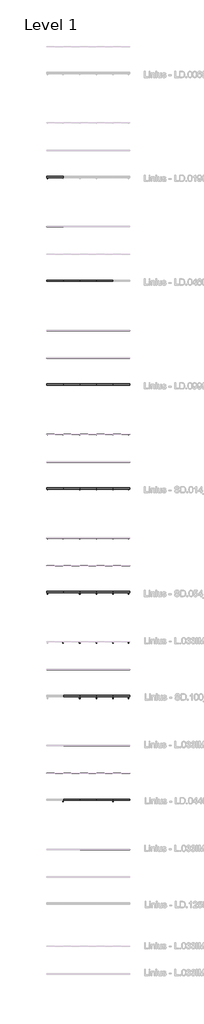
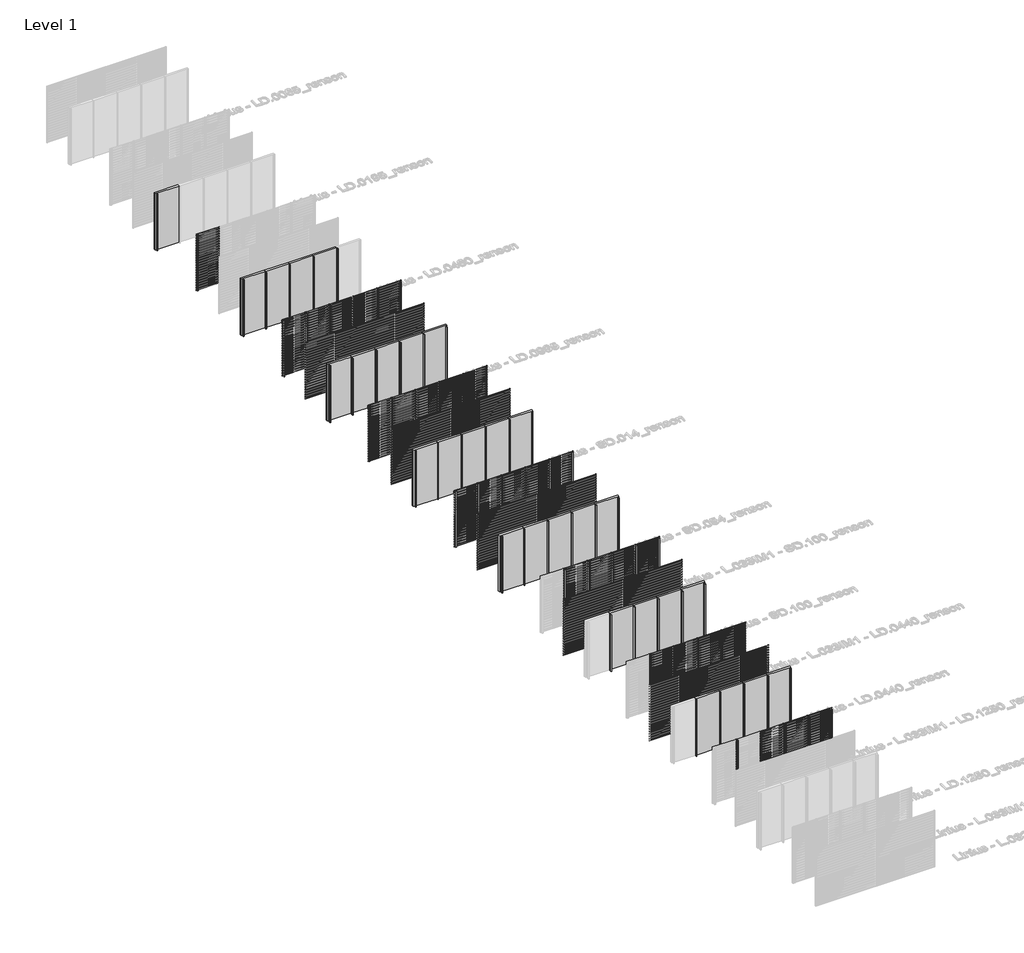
# One storey, part 8 of 507: 68 members, 60 plates.
"""IFC4 building model written with IfcOpenShell, lengths in millimetres."""

from ifc_helpers import new_model, si_unit, origin, origin_with_axes, place, context, project, spatial, polyline, outline, extrude, transform, mapped, element, save
from components import rectangular_mullion_21e3ddae, rectangular_mullion_fb497acc, rectangular_mullion_3facce28, rectangular_mullion_6cf2c509, rectangular_mullion_8b77bd57, rectangular_mullion_2c867e25, rectangular_mullion_7803f5c4, rectangular_mullion_146f339b, rectangular_mullion_c2c7736a, rectangular_mullion_bd250e2e, rectangular_mullion_7b49c8f1, rectangular_mullion_2b84ad7e, rectangular_mullion_0fd695e7, rectangular_mullion_9b796d85, rectangular_mullion_dfb17e98, rectangular_mullion_8f153c19, rectangular_mullion_5e0e8e0a, rectangular_mullion_efb80f74, empty_system_panel_empty_aabbdda4

model = new_model("IFC4")

# Units and contexts
model_context = context("Model", 3, world=origin())
ifc_project = project(units=[si_unit("LENGTHUNIT", "METRE", prefix="MILLI")], contexts=[model_context])

# Site, building, storey
site = spatial("IfcSite", under=ifc_project)
building = spatial("IfcBuilding", under=site)
storey = spatial("IfcBuildingStorey", under=building, Name="Level 1", Elevation=0.0)

# Members
placement = place(None, origin())
rectangular_mullion_shape = rectangular_mullion_21e3ddae(model_context)
element("IfcMember", 1, ObjectType="Rectangular Mullion : LD.0460_renson", at=placement, inside=storey, context=model_context, shape_type="MappedRepresentation", body=[
    mapped(rectangular_mullion_shape, transform((227766.6208095, 54983.0540136, 0.0), x_axis=(-1.0, 0.0, 0.0), y_axis=(0.0, 1.0, 0.0), z_axis=(0.0, 0.0, -1.0))),
])
element("IfcMember", 2, ObjectType="Rectangular Mullion : LD.0460_renson", at=placement, inside=storey, context=model_context, shape_type="MappedRepresentation", body=[
    mapped(rectangular_mullion_shape, transform((226566.6208096, 54983.0540136, 0.0), x_axis=(-1.0, 0.0, 0.0), y_axis=(0.0, 1.0, 0.0), z_axis=(0.0, 0.0, -1.0))),
])
element("IfcMember", 3, ObjectType="Rectangular Mullion : LD.0460_renson", at=placement, inside=storey, context=model_context, shape_type="MappedRepresentation", body=[
    mapped(rectangular_mullion_shape, transform((225366.6208097, 54983.0540136, 0.0), x_axis=(-1.0, 0.0, 0.0), y_axis=(0.0, 1.0, 0.0), z_axis=(0.0, 0.0, -1.0))),
])
element("IfcMember", 4, ObjectType="Rectangular Mullion : LD.0460_renson", at=placement, inside=storey, context=model_context, shape_type="MappedRepresentation", body=[
    mapped(rectangular_mullion_shape, transform((224166.6208099, 54983.0540136, 0.0), x_axis=(-1.0, 0.0, 0.0), y_axis=(0.0, 1.0, 0.0), z_axis=(0.0, 0.0, -1.0))),
])
rectangular_mullion_2_shape = rectangular_mullion_fb497acc(model_context)
element("IfcMember", 5, ObjectType="Rectangular Mullion : LD.0995_renson", at=placement, inside=storey, context=model_context, shape_type="MappedRepresentation", body=[
    mapped(rectangular_mullion_2_shape, transform((227766.6208097, 51483.0540136, 0.0), x_axis=(-1.0, 0.0, 0.0), y_axis=(0.0, 1.0, 0.0), z_axis=(0.0, 0.0, -1.0))),
])
element("IfcMember", 6, ObjectType="Rectangular Mullion : LD.0995_renson", at=placement, inside=storey, context=model_context, shape_type="MappedRepresentation", body=[
    mapped(rectangular_mullion_2_shape, transform((226566.6208097, 51483.0540136, 0.0), x_axis=(-1.0, 0.0, 0.0), y_axis=(0.0, 1.0, 0.0), z_axis=(0.0, 0.0, -1.0))),
])
element("IfcMember", 7, ObjectType="Rectangular Mullion : LD.0995_renson", at=placement, inside=storey, context=model_context, shape_type="MappedRepresentation", body=[
    mapped(rectangular_mullion_2_shape, transform((225366.6208097, 51483.0540136, 0.0), x_axis=(-1.0, 0.0, 0.0), y_axis=(0.0, 1.0, 0.0), z_axis=(0.0, 0.0, -1.0))),
])
element("IfcMember", 8, ObjectType="Rectangular Mullion : LD.0995_renson", at=placement, inside=storey, context=model_context, shape_type="MappedRepresentation", body=[
    mapped(rectangular_mullion_2_shape, transform((224166.6208097, 51483.0540136, 0.0), x_axis=(-1.0, 0.0, 0.0), y_axis=(0.0, 1.0, 0.0), z_axis=(0.0, 0.0, -1.0))),
])
element("IfcMember", 9, ObjectType="Rectangular Mullion : LD.0995_renson", at=placement, inside=storey, context=model_context, shape_type="MappedRepresentation", body=[
    mapped(rectangular_mullion_2_shape, transform((227766.6208095, 47483.0540136, 0.0), x_axis=(-1.0, 0.0, 0.0), y_axis=(0.0, 1.0, 0.0), z_axis=(0.0, 0.0, -1.0))),
])
element("IfcMember", 10, ObjectType="Rectangular Mullion : LD.0995_renson", at=placement, inside=storey, context=model_context, shape_type="MappedRepresentation", body=[
    mapped(rectangular_mullion_2_shape, transform((226566.6208096, 47483.0540136, 0.0), x_axis=(-1.0, 0.0, 0.0), y_axis=(0.0, 1.0, 0.0), z_axis=(0.0, 0.0, -1.0))),
])
element("IfcMember", 11, ObjectType="Rectangular Mullion : LD.0995_renson", at=placement, inside=storey, context=model_context, shape_type="MappedRepresentation", body=[
    mapped(rectangular_mullion_2_shape, transform((225366.6208097, 47483.0540136, 0.0), x_axis=(-1.0, 0.0, 0.0), y_axis=(0.0, 1.0, 0.0), z_axis=(0.0, 0.0, -1.0))),
])
element("IfcMember", 12, ObjectType="Rectangular Mullion : LD.0995_renson", at=placement, inside=storey, context=model_context, shape_type="MappedRepresentation", body=[
    mapped(rectangular_mullion_2_shape, transform((224166.6208099, 47483.0540136, 0.0), x_axis=(-1.0, 0.0, 0.0), y_axis=(0.0, 1.0, 0.0), z_axis=(0.0, 0.0, -1.0))),
])
rectangular_mullion_3_shape = rectangular_mullion_3facce28(model_context)
element("IfcMember", 13, ObjectType="Rectangular Mullion : SD.014_renson", at=placement, inside=storey, context=model_context, shape_type="MappedRepresentation", body=[
    mapped(rectangular_mullion_3_shape, transform((227766.6208097, 43983.0540136, 0.0), x_axis=(-1.0, 0.0, 0.0), y_axis=(0.0, 1.0, 0.0), z_axis=(0.0, 0.0, -1.0))),
])
element("IfcMember", 14, ObjectType="Rectangular Mullion : SD.014_renson", at=placement, inside=storey, context=model_context, shape_type="MappedRepresentation", body=[
    mapped(rectangular_mullion_3_shape, transform((226566.6208097, 43983.0540136, 0.0), x_axis=(-1.0, 0.0, 0.0), y_axis=(0.0, 1.0, 0.0), z_axis=(0.0, 0.0, -1.0))),
])
element("IfcMember", 15, ObjectType="Rectangular Mullion : SD.014_renson", at=placement, inside=storey, context=model_context, shape_type="MappedRepresentation", body=[
    mapped(rectangular_mullion_3_shape, transform((225366.6208097, 43983.0540136, 0.0), x_axis=(-1.0, 0.0, 0.0), y_axis=(0.0, 1.0, 0.0), z_axis=(0.0, 0.0, -1.0))),
])
element("IfcMember", 16, ObjectType="Rectangular Mullion : SD.014_renson", at=placement, inside=storey, context=model_context, shape_type="MappedRepresentation", body=[
    mapped(rectangular_mullion_3_shape, transform((224166.6208097, 43983.0540136, 0.0), x_axis=(-1.0, 0.0, 0.0), y_axis=(0.0, 1.0, 0.0), z_axis=(0.0, 0.0, -1.0))),
])
element("IfcMember", 17, ObjectType="Rectangular Mullion : SD.014_renson", at=placement, inside=storey, context=model_context, shape_type="MappedRepresentation", body=[
    mapped(rectangular_mullion_3_shape, transform((227766.6208095, 39983.0540136, 0.0), x_axis=(-1.0, 0.0, 0.0), y_axis=(0.0, 1.0, 0.0), z_axis=(0.0, 0.0, -1.0))),
])
element("IfcMember", 18, ObjectType="Rectangular Mullion : SD.014_renson", at=placement, inside=storey, context=model_context, shape_type="MappedRepresentation", body=[
    mapped(rectangular_mullion_3_shape, transform((226566.6208096, 39983.0540136, 0.0), x_axis=(-1.0, 0.0, 0.0), y_axis=(0.0, 1.0, 0.0), z_axis=(0.0, 0.0, -1.0))),
])
element("IfcMember", 19, ObjectType="Rectangular Mullion : SD.014_renson", at=placement, inside=storey, context=model_context, shape_type="MappedRepresentation", body=[
    mapped(rectangular_mullion_3_shape, transform((225366.6208097, 39983.0540136, 0.0), x_axis=(-1.0, 0.0, 0.0), y_axis=(0.0, 1.0, 0.0), z_axis=(0.0, 0.0, -1.0))),
])
element("IfcMember", 20, ObjectType="Rectangular Mullion : SD.014_renson", at=placement, inside=storey, context=model_context, shape_type="MappedRepresentation", body=[
    mapped(rectangular_mullion_3_shape, transform((224166.6208099, 39983.0540136, 0.0), x_axis=(-1.0, 0.0, 0.0), y_axis=(0.0, 1.0, 0.0), z_axis=(0.0, 0.0, -1.0))),
])
rectangular_mullion_4_shape = rectangular_mullion_6cf2c509(model_context)
element("IfcMember", 21, ObjectType="Rectangular Mullion : SD.054_renson", at=placement, inside=storey, context=model_context, shape_type="MappedRepresentation", body=[
    mapped(rectangular_mullion_4_shape, transform((227766.6208097, 36483.0540136, 0.0), x_axis=(-1.0, 0.0, 0.0), y_axis=(0.0, 1.0, 0.0), z_axis=(0.0, 0.0, -1.0))),
])
element("IfcMember", 22, ObjectType="Rectangular Mullion : SD.054_renson", at=placement, inside=storey, context=model_context, shape_type="MappedRepresentation", body=[
    mapped(rectangular_mullion_4_shape, transform((226566.6208097, 36483.0540136, 0.0), x_axis=(-1.0, 0.0, 0.0), y_axis=(0.0, 1.0, 0.0), z_axis=(0.0, 0.0, -1.0))),
])
element("IfcMember", 23, ObjectType="Rectangular Mullion : SD.054_renson", at=placement, inside=storey, context=model_context, shape_type="MappedRepresentation", body=[
    mapped(rectangular_mullion_4_shape, transform((225366.6208097, 36483.0540136, 0.0), x_axis=(-1.0, 0.0, 0.0), y_axis=(0.0, 1.0, 0.0), z_axis=(0.0, 0.0, -1.0))),
])
element("IfcMember", 24, ObjectType="Rectangular Mullion : SD.054_renson", at=placement, inside=storey, context=model_context, shape_type="MappedRepresentation", body=[
    mapped(rectangular_mullion_4_shape, transform((224166.6208097, 36483.0540136, 0.0), x_axis=(-1.0, 0.0, 0.0), y_axis=(0.0, 1.0, 0.0), z_axis=(0.0, 0.0, -1.0))),
])
element("IfcMember", 25, ObjectType="Rectangular Mullion : SD.054_renson", at=placement, inside=storey, context=model_context, shape_type="MappedRepresentation", body=[
    mapped(rectangular_mullion_4_shape, transform((227766.6208095, 32483.0540136, 0.0), x_axis=(-1.0, 0.0, 0.0), y_axis=(0.0, 1.0, 0.0), z_axis=(0.0, 0.0, -1.0))),
])
element("IfcMember", 26, ObjectType="Rectangular Mullion : SD.054_renson", at=placement, inside=storey, context=model_context, shape_type="MappedRepresentation", body=[
    mapped(rectangular_mullion_4_shape, transform((226566.6208096, 32483.0540136, 0.0), x_axis=(-1.0, 0.0, 0.0), y_axis=(0.0, 1.0, 0.0), z_axis=(0.0, 0.0, -1.0))),
])
element("IfcMember", 27, ObjectType="Rectangular Mullion : SD.054_renson", at=placement, inside=storey, context=model_context, shape_type="MappedRepresentation", body=[
    mapped(rectangular_mullion_4_shape, transform((225366.6208097, 32483.0540136, 0.0), x_axis=(-1.0, 0.0, 0.0), y_axis=(0.0, 1.0, 0.0), z_axis=(0.0, 0.0, -1.0))),
])
element("IfcMember", 28, ObjectType="Rectangular Mullion : SD.054_renson", at=placement, inside=storey, context=model_context, shape_type="MappedRepresentation", body=[
    mapped(rectangular_mullion_4_shape, transform((224166.6208099, 32483.0540136, 0.0), x_axis=(-1.0, 0.0, 0.0), y_axis=(0.0, 1.0, 0.0), z_axis=(0.0, 0.0, -1.0))),
])
rectangular_mullion_5_shape = rectangular_mullion_8b77bd57(model_context)
element("IfcMember", 29, ObjectType="Rectangular Mullion : SD.100_renson", at=placement, inside=storey, context=model_context, shape_type="MappedRepresentation", body=[
    mapped(rectangular_mullion_5_shape, transform((227766.6208097, 28983.0540136, 0.0), x_axis=(-1.0, 0.0, 0.0), y_axis=(0.0, 1.0, 0.0), z_axis=(0.0, 0.0, -1.0))),
])
element("IfcMember", 30, ObjectType="Rectangular Mullion : SD.100_renson", at=placement, inside=storey, context=model_context, shape_type="MappedRepresentation", body=[
    mapped(rectangular_mullion_5_shape, transform((226566.6208097, 28983.0540136, 0.0), x_axis=(-1.0, 0.0, 0.0), y_axis=(0.0, 1.0, 0.0), z_axis=(0.0, 0.0, -1.0))),
])
element("IfcMember", 31, ObjectType="Rectangular Mullion : SD.100_renson", at=placement, inside=storey, context=model_context, shape_type="MappedRepresentation", body=[
    mapped(rectangular_mullion_5_shape, transform((225366.6208097, 28983.0540136, 0.0), x_axis=(-1.0, 0.0, 0.0), y_axis=(0.0, 1.0, 0.0), z_axis=(0.0, 0.0, -1.0))),
])
element("IfcMember", 32, ObjectType="Rectangular Mullion : SD.100_renson", at=placement, inside=storey, context=model_context, shape_type="MappedRepresentation", body=[
    mapped(rectangular_mullion_5_shape, transform((224166.6208097, 28983.0540136, 0.0), x_axis=(-1.0, 0.0, 0.0), y_axis=(0.0, 1.0, 0.0), z_axis=(0.0, 0.0, -1.0))),
])
element("IfcMember", 33, ObjectType="Rectangular Mullion : SD.100_renson", at=placement, inside=storey, context=model_context, shape_type="MappedRepresentation", body=[
    mapped(rectangular_mullion_5_shape, transform((227766.6208095, 24983.0540136, 0.0), x_axis=(-1.0, 0.0, 0.0), y_axis=(0.0, 1.0, 0.0), z_axis=(0.0, 0.0, -1.0))),
])
element("IfcMember", 34, ObjectType="Rectangular Mullion : SD.100_renson", at=placement, inside=storey, context=model_context, shape_type="MappedRepresentation", body=[
    mapped(rectangular_mullion_5_shape, transform((226566.6208096, 24983.0540136, 0.0), x_axis=(-1.0, 0.0, 0.0), y_axis=(0.0, 1.0, 0.0), z_axis=(0.0, 0.0, -1.0))),
])
element("IfcMember", 35, ObjectType="Rectangular Mullion : SD.100_renson", at=placement, inside=storey, context=model_context, shape_type="MappedRepresentation", body=[
    mapped(rectangular_mullion_5_shape, transform((225366.6208097, 24983.0540136, 0.0), x_axis=(-1.0, 0.0, 0.0), y_axis=(0.0, 1.0, 0.0), z_axis=(0.0, 0.0, -1.0))),
])
element("IfcMember", 36, ObjectType="Rectangular Mullion : SD.100_renson", at=placement, inside=storey, context=model_context, shape_type="MappedRepresentation", body=[
    mapped(rectangular_mullion_5_shape, transform((224166.6208099, 24983.0540136, 0.0), x_axis=(-1.0, 0.0, 0.0), y_axis=(0.0, 1.0, 0.0), z_axis=(0.0, 0.0, -1.0))),
])
rectangular_mullion_6_shape = rectangular_mullion_2c867e25(model_context)
element("IfcMember", 37, ObjectType="Rectangular Mullion : LD.0440_renson", at=placement, inside=storey, context=model_context, shape_type="MappedRepresentation", body=[
    mapped(rectangular_mullion_6_shape, transform((227766.6208097, 21483.0540136, 0.0), x_axis=(-1.0, 0.0, 0.0), y_axis=(0.0, 1.0, 0.0), z_axis=(0.0, 0.0, -1.0))),
])
element("IfcMember", 38, ObjectType="Rectangular Mullion : LD.0440_renson", at=placement, inside=storey, context=model_context, shape_type="MappedRepresentation", body=[
    mapped(rectangular_mullion_6_shape, transform((226566.6208097, 21483.0540136, 0.0), x_axis=(-1.0, 0.0, 0.0), y_axis=(0.0, 1.0, 0.0), z_axis=(0.0, 0.0, -1.0))),
])
element("IfcMember", 39, ObjectType="Rectangular Mullion : LD.0440_renson", at=placement, inside=storey, context=model_context, shape_type="MappedRepresentation", body=[
    mapped(rectangular_mullion_6_shape, transform((225366.6208097, 21483.0540136, 0.0), x_axis=(-1.0, 0.0, 0.0), y_axis=(0.0, 1.0, 0.0), z_axis=(0.0, 0.0, -1.0))),
])
element("IfcMember", 40, ObjectType="Rectangular Mullion : LD.0440_renson", at=placement, inside=storey, context=model_context, shape_type="MappedRepresentation", body=[
    mapped(rectangular_mullion_6_shape, transform((224166.6208097, 21483.0540136, 0.0), x_axis=(-1.0, 0.0, 0.0), y_axis=(0.0, 1.0, 0.0), z_axis=(0.0, 0.0, -1.0))),
])
element("IfcMember", 41, ObjectType="Rectangular Mullion : LD.0440_renson", at=placement, inside=storey, context=model_context, shape_type="MappedRepresentation", body=[
    mapped(rectangular_mullion_6_shape, transform((227766.6208095, 17483.0540136, 0.0), x_axis=(-1.0, 0.0, 0.0), y_axis=(0.0, 1.0, 0.0), z_axis=(0.0, 0.0, -1.0))),
])
element("IfcMember", 42, ObjectType="Rectangular Mullion : LD.0440_renson", at=placement, inside=storey, context=model_context, shape_type="MappedRepresentation", body=[
    mapped(rectangular_mullion_6_shape, transform((226566.6208096, 17483.0540136, 0.0), x_axis=(-1.0, 0.0, 0.0), y_axis=(0.0, 1.0, 0.0), z_axis=(0.0, 0.0, -1.0))),
])
element("IfcMember", 43, ObjectType="Rectangular Mullion : LD.0440_renson", at=placement, inside=storey, context=model_context, shape_type="MappedRepresentation", body=[
    mapped(rectangular_mullion_6_shape, transform((225366.6208097, 17483.0540136, 0.0), x_axis=(-1.0, 0.0, 0.0), y_axis=(0.0, 1.0, 0.0), z_axis=(0.0, 0.0, -1.0))),
])
element("IfcMember", 44, ObjectType="Rectangular Mullion : LD.0440_renson", at=placement, inside=storey, context=model_context, shape_type="MappedRepresentation", body=[
    mapped(rectangular_mullion_6_shape, transform((224166.6208099, 17483.0540136, 0.0), x_axis=(-1.0, 0.0, 0.0), y_axis=(0.0, 1.0, 0.0), z_axis=(0.0, 0.0, -1.0))),
])
rectangular_mullion_7_shape = rectangular_mullion_7803f5c4(model_context)
element("IfcMember", 45, ObjectType="Rectangular Mullion : LD.1250_renson", at=placement, inside=storey, context=model_context, shape_type="MappedRepresentation", body=[
    mapped(rectangular_mullion_7_shape, transform((227766.6208097, 13983.0540136, 0.0), x_axis=(-1.0, 0.0, 0.0), y_axis=(0.0, 1.0, 0.0), z_axis=(0.0, 0.0, -1.0))),
])
element("IfcMember", 46, ObjectType="Rectangular Mullion : LD.1250_renson", at=placement, inside=storey, context=model_context, shape_type="MappedRepresentation", body=[
    mapped(rectangular_mullion_7_shape, transform((226566.6208097, 13983.0540136, 0.0), x_axis=(-1.0, 0.0, 0.0), y_axis=(0.0, 1.0, 0.0), z_axis=(0.0, 0.0, -1.0))),
])
element("IfcMember", 47, ObjectType="Rectangular Mullion : LD.1250_renson", at=placement, inside=storey, context=model_context, shape_type="MappedRepresentation", body=[
    mapped(rectangular_mullion_7_shape, transform((225366.6208097, 13983.0540136, 0.0), x_axis=(-1.0, 0.0, 0.0), y_axis=(0.0, 1.0, 0.0), z_axis=(0.0, 0.0, -1.0))),
])
element("IfcMember", 48, ObjectType="Rectangular Mullion : LD.1250_renson", at=placement, inside=storey, context=model_context, shape_type="MappedRepresentation", body=[
    mapped(rectangular_mullion_7_shape, transform((224166.6208097, 13983.0540136, 0.0), x_axis=(-1.0, 0.0, 0.0), y_axis=(0.0, 1.0, 0.0), z_axis=(0.0, 0.0, -1.0))),
])
rectangular_mullion_8_shape = rectangular_mullion_146f339b(model_context)
element("IfcMember", 49, ObjectType="Rectangular Mullion : LD.0195 - left_renson", at=placement, inside=storey, context=model_context, shape_type="MappedRepresentation", body=[
    mapped(rectangular_mullion_8_shape, transform((222966.6208097, 62483.0540136, 0.0), x_axis=(-1.0, 0.0, 0.0), y_axis=(0.0, 1.0, 0.0), z_axis=(0.0, 0.0, -1.0))),
])
rectangular_mullion_9_shape = rectangular_mullion_c2c7736a(model_context)
element("IfcMember", 50, ObjectType="Rectangular Mullion : LD.0460 - left_renson", at=placement, inside=storey, context=model_context, shape_type="MappedRepresentation", body=[
    mapped(rectangular_mullion_9_shape, transform((222966.6208097, 58983.0540136, 0.0), x_axis=(-1.0, 0.0, 0.0), y_axis=(0.0, 1.0, 0.0), z_axis=(0.0, 0.0, -1.0))),
])
element("IfcMember", 51, ObjectType="Rectangular Mullion : LD.0460 - left_renson", at=placement, inside=storey, context=model_context, shape_type="MappedRepresentation", body=[
    mapped(rectangular_mullion_9_shape, transform((222966.6208097, 54983.0540136, 0.0), x_axis=(-1.0, 0.0, 0.0), y_axis=(0.0, 1.0, 0.0), z_axis=(0.0, 0.0, -1.0))),
])
rectangular_mullion_10_shape = rectangular_mullion_bd250e2e(model_context)
element("IfcMember", 52, ObjectType="Rectangular Mullion : LD.0995 - left_renson", at=placement, inside=storey, context=model_context, shape_type="MappedRepresentation", body=[
    mapped(rectangular_mullion_10_shape, transform((222966.6208097, 51483.0540136, 0.0), x_axis=(-1.0, 0.0, 0.0), y_axis=(0.0, 1.0, 0.0), z_axis=(0.0, 0.0, -1.0))),
])
element("IfcMember", 53, ObjectType="Rectangular Mullion : LD.0995 - left_renson", at=placement, inside=storey, context=model_context, shape_type="MappedRepresentation", body=[
    mapped(rectangular_mullion_10_shape, transform((222966.6208097, 47483.0540136, 0.0), x_axis=(-1.0, 0.0, 0.0), y_axis=(0.0, 1.0, 0.0), z_axis=(0.0, 0.0, -1.0))),
])
rectangular_mullion_11_shape = rectangular_mullion_7b49c8f1(model_context)
element("IfcMember", 54, ObjectType="Rectangular Mullion : LD.0995 - right_renson", at=placement, inside=storey, context=model_context, shape_type="MappedRepresentation", body=[
    mapped(rectangular_mullion_11_shape, transform((228966.6208097, 51483.0540136, 3000.0), x_axis=(1.0, 0.0, 0.0), y_axis=(0.0, 1.0, 0.0), z_axis=(0.0, 0.0, 1.0))),
])
element("IfcMember", 55, ObjectType="Rectangular Mullion : LD.0995 - right_renson", at=placement, inside=storey, context=model_context, shape_type="MappedRepresentation", body=[
    mapped(rectangular_mullion_11_shape, transform((228966.6208097, 47483.0540136, 3000.0), x_axis=(1.0, 0.0, 0.0), y_axis=(0.0, 1.0, 0.0), z_axis=(0.0, 0.0, 1.0))),
])
rectangular_mullion_12_shape = rectangular_mullion_2b84ad7e(model_context)
element("IfcMember", 56, ObjectType="Rectangular Mullion : SD.014 - left_renson", at=placement, inside=storey, context=model_context, shape_type="MappedRepresentation", body=[
    mapped(rectangular_mullion_12_shape, transform((222966.6208097, 43983.0540136, 0.0), x_axis=(-1.0, 0.0, 0.0), y_axis=(0.0, 1.0, 0.0), z_axis=(0.0, 0.0, -1.0))),
])
element("IfcMember", 57, ObjectType="Rectangular Mullion : SD.014 - left_renson", at=placement, inside=storey, context=model_context, shape_type="MappedRepresentation", body=[
    mapped(rectangular_mullion_12_shape, transform((222966.6208097, 39983.0540136, 0.0), x_axis=(-1.0, 0.0, 0.0), y_axis=(0.0, 1.0, 0.0), z_axis=(0.0, 0.0, -1.0))),
])
rectangular_mullion_13_shape = rectangular_mullion_0fd695e7(model_context)
element("IfcMember", 58, ObjectType="Rectangular Mullion : SD.014 - right_renson", at=placement, inside=storey, context=model_context, shape_type="MappedRepresentation", body=[
    mapped(rectangular_mullion_13_shape, transform((228966.6208097, 43983.0540136, 3000.0), x_axis=(1.0, 0.0, 0.0), y_axis=(0.0, 1.0, 0.0), z_axis=(0.0, 0.0, 1.0))),
])
element("IfcMember", 59, ObjectType="Rectangular Mullion : SD.014 - right_renson", at=placement, inside=storey, context=model_context, shape_type="MappedRepresentation", body=[
    mapped(rectangular_mullion_13_shape, transform((228966.6208097, 39983.0540136, 3000.0), x_axis=(1.0, 0.0, 0.0), y_axis=(0.0, 1.0, 0.0), z_axis=(0.0, 0.0, 1.0))),
])
rectangular_mullion_14_shape = rectangular_mullion_9b796d85(model_context)
element("IfcMember", 60, ObjectType="Rectangular Mullion : SD.054 - left_renson", at=placement, inside=storey, context=model_context, shape_type="MappedRepresentation", body=[
    mapped(rectangular_mullion_14_shape, transform((222966.6208097, 36483.0540136, 0.0), x_axis=(-1.0, 0.0, 0.0), y_axis=(0.0, 1.0, 0.0), z_axis=(0.0, 0.0, -1.0))),
])
element("IfcMember", 61, ObjectType="Rectangular Mullion : SD.054 - left_renson", at=placement, inside=storey, context=model_context, shape_type="MappedRepresentation", body=[
    mapped(rectangular_mullion_14_shape, transform((222966.6208097, 32483.0540136, 0.0), x_axis=(-1.0, 0.0, 0.0), y_axis=(0.0, 1.0, 0.0), z_axis=(0.0, 0.0, -1.0))),
])
rectangular_mullion_15_shape = rectangular_mullion_dfb17e98(model_context)
element("IfcMember", 62, ObjectType="Rectangular Mullion : SD.054 - right_renson", at=placement, inside=storey, context=model_context, shape_type="MappedRepresentation", body=[
    mapped(rectangular_mullion_15_shape, transform((228966.6208097, 36483.0540136, 3000.0), x_axis=(1.0, 0.0, 0.0), y_axis=(0.0, 1.0, 0.0), z_axis=(0.0, 0.0, 1.0))),
])
element("IfcMember", 63, ObjectType="Rectangular Mullion : SD.054 - right_renson", at=placement, inside=storey, context=model_context, shape_type="MappedRepresentation", body=[
    mapped(rectangular_mullion_15_shape, transform((228966.6208097, 32483.0540136, 3000.0), x_axis=(1.0, 0.0, 0.0), y_axis=(0.0, 1.0, 0.0), z_axis=(0.0, 0.0, 1.0))),
])
rectangular_mullion_16_shape = rectangular_mullion_8f153c19(model_context)
element("IfcMember", 64, ObjectType="Rectangular Mullion : SD.100 - right_renson", at=placement, inside=storey, context=model_context, shape_type="MappedRepresentation", body=[
    mapped(rectangular_mullion_16_shape, transform((228966.6208097, 28983.0540136, 3000.0), x_axis=(1.0, 0.0, 0.0), y_axis=(0.0, 1.0, 0.0), z_axis=(0.0, 0.0, 1.0))),
])
element("IfcMember", 65, ObjectType="Rectangular Mullion : SD.100 - right_renson", at=placement, inside=storey, context=model_context, shape_type="MappedRepresentation", body=[
    mapped(rectangular_mullion_16_shape, transform((228966.6208097, 24983.0540136, 3000.0), x_axis=(1.0, 0.0, 0.0), y_axis=(0.0, 1.0, 0.0), z_axis=(0.0, 0.0, 1.0))),
])
rectangular_mullion_17_shape = rectangular_mullion_5e0e8e0a(model_context)
element("IfcMember", 66, ObjectType="Rectangular Mullion : LD.0440 - right_renson", at=placement, inside=storey, context=model_context, shape_type="MappedRepresentation", body=[
    mapped(rectangular_mullion_17_shape, transform((228966.6208097, 21483.0540136, 3000.0), x_axis=(1.0, 0.0, 0.0), y_axis=(0.0, 1.0, 0.0), z_axis=(0.0, 0.0, 1.0))),
])
element("IfcMember", 67, ObjectType="Rectangular Mullion : LD.0440 - right_renson", at=placement, inside=storey, context=model_context, shape_type="MappedRepresentation", body=[
    mapped(rectangular_mullion_17_shape, transform((228966.6208097, 17483.0540136, 3000.0), x_axis=(1.0, 0.0, 0.0), y_axis=(0.0, 1.0, 0.0), z_axis=(0.0, 0.0, 1.0))),
])
rectangular_mullion_18_shape = rectangular_mullion_efb80f74(model_context)
element("IfcMember", 68, ObjectType="Rectangular Mullion : LD.1250 - right_renson", at=placement, inside=storey, context=model_context, shape_type="MappedRepresentation", body=[
    mapped(rectangular_mullion_18_shape, transform((228966.6208097, 13983.0540136, 3000.0), x_axis=(1.0, 0.0, 0.0), y_axis=(0.0, 1.0, 0.0), z_axis=(0.0, 0.0, 1.0))),
])

# Plates
element("IfcPlate", 69, ObjectType="Linius - L.033IM1_renson", at=placement, inside=storey, context=model_context, shape_type="SweptSolid", body=[
    extrude(outline(polyline([(222966.6208097, 58984.0540136), (224166.6208097, 58984.0540136), (224166.6208097, 58982.0540136), (222966.6208097, 58982.0540136), (222966.6208097, 58984.0540136)])), origin_with_axes(), (0.0, 0.0, 1.0), 3000.0),
])
element("IfcPlate", 70, ObjectType="Linius - L.033IM1_renson", at=placement, inside=storey, context=model_context, shape_type="SweptSolid", body=[
    extrude(outline(polyline([(222966.6208097, 51484.0540136), (224166.6208097, 51484.0540136), (224166.6208097, 51482.0540136), (222966.6208097, 51482.0540136), (222966.6208097, 51484.0540136)])), origin_with_axes(), (0.0, 0.0, 1.0), 3000.0),
])
element("IfcPlate", 71, ObjectType="Linius - L.033IM1_renson", at=placement, inside=storey, context=model_context, shape_type="SweptSolid", body=[
    extrude(outline(polyline([(224166.6208097, 51484.0540136), (225366.6208097, 51484.0540136), (225366.6208097, 51482.0540136), (224166.6208097, 51482.0540136), (224166.6208097, 51484.0540136)])), origin_with_axes(), (0.0, 0.0, 1.0), 3000.0),
])
element("IfcPlate", 72, ObjectType="Linius - L.033IM1_renson", at=placement, inside=storey, context=model_context, shape_type="SweptSolid", body=[
    extrude(outline(polyline([(225366.6208097, 51484.0540136), (226566.6208097, 51484.0540136), (226566.6208097, 51482.0540136), (225366.6208097, 51482.0540136), (225366.6208097, 51484.0540136)])), origin_with_axes(), (0.0, 0.0, 1.0), 3000.0),
])
element("IfcPlate", 73, ObjectType="Linius - L.033IM1_renson", at=placement, inside=storey, context=model_context, shape_type="SweptSolid", body=[
    extrude(outline(polyline([(226566.6208097, 51484.0540136), (227766.6208097, 51484.0540136), (227766.6208097, 51482.0540136), (226566.6208097, 51482.0540136), (226566.6208097, 51484.0540136)])), origin_with_axes(), (0.0, 0.0, 1.0), 3000.0),
])
element("IfcPlate", 74, ObjectType="Linius - L.033IM1_renson", at=placement, inside=storey, context=model_context, shape_type="SweptSolid", body=[
    extrude(outline(polyline([(227766.6208097, 51484.0540136), (228966.6208097, 51484.0540136), (228966.6208097, 51482.0540136), (227766.6208097, 51482.0540136), (227766.6208097, 51484.0540136)])), origin_with_axes(), (0.0, 0.0, 1.0), 3000.0),
])
element("IfcPlate", 75, ObjectType="Linius - L.033IM1_renson", at=placement, inside=storey, context=model_context, shape_type="SweptSolid", body=[
    extrude(outline(polyline([(222966.6208097, 49484.0540136), (228966.6208097, 49484.0540136), (228966.6208097, 49482.0540136), (222966.6208097, 49482.0540136), (222966.6208097, 49484.0540136)])), origin_with_axes(), (0.0, 0.0, 1.0), 3000.0),
])
element("IfcPlate", 76, ObjectType="Linius - L.033IM1_renson", at=placement, inside=storey, context=model_context, shape_type="SweptSolid", body=[
    extrude(outline(polyline([(222966.6208097, 43984.0540136), (224166.6208097, 43984.0540136), (224166.6208097, 43982.0540136), (222966.6208097, 43982.0540136), (222966.6208097, 43984.0540136)])), origin_with_axes(), (0.0, 0.0, 1.0), 3000.0),
])
element("IfcPlate", 77, ObjectType="Linius - L.033IM1_renson", at=placement, inside=storey, context=model_context, shape_type="SweptSolid", body=[
    extrude(outline(polyline([(224166.6208097, 43984.0540136), (225366.6208097, 43984.0540136), (225366.6208097, 43982.0540136), (224166.6208097, 43982.0540136), (224166.6208097, 43984.0540136)])), origin_with_axes(), (0.0, 0.0, 1.0), 3000.0),
])
element("IfcPlate", 78, ObjectType="Linius - L.033IM1_renson", at=placement, inside=storey, context=model_context, shape_type="SweptSolid", body=[
    extrude(outline(polyline([(225366.6208097, 43984.0540136), (226566.6208097, 43984.0540136), (226566.6208097, 43982.0540136), (225366.6208097, 43982.0540136), (225366.6208097, 43984.0540136)])), origin_with_axes(), (0.0, 0.0, 1.0), 3000.0),
])
element("IfcPlate", 79, ObjectType="Linius - L.033IM1_renson", at=placement, inside=storey, context=model_context, shape_type="SweptSolid", body=[
    extrude(outline(polyline([(226566.6208097, 43984.0540136), (227766.6208097, 43984.0540136), (227766.6208097, 43982.0540136), (226566.6208097, 43982.0540136), (226566.6208097, 43984.0540136)])), origin_with_axes(), (0.0, 0.0, 1.0), 3000.0),
])
element("IfcPlate", 80, ObjectType="Linius - L.033IM1_renson", at=placement, inside=storey, context=model_context, shape_type="SweptSolid", body=[
    extrude(outline(polyline([(227766.6208097, 43984.0540136), (228966.6208097, 43984.0540136), (228966.6208097, 43982.0540136), (227766.6208097, 43982.0540136), (227766.6208097, 43984.0540136)])), origin_with_axes(), (0.0, 0.0, 1.0), 3000.0),
])
element("IfcPlate", 81, ObjectType="Linius - L.033IM1_renson", at=placement, inside=storey, context=model_context, shape_type="SweptSolid", body=[
    extrude(outline(polyline([(222966.6208097, 41984.0540136), (228966.6208097, 41984.0540136), (228966.6208097, 41982.0540136), (222966.6208097, 41982.0540136), (222966.6208097, 41984.0540136)])), origin_with_axes(), (0.0, 0.0, 1.0), 3000.0),
])
element("IfcPlate", 82, ObjectType="Linius - L.033IM1_renson", at=placement, inside=storey, context=model_context, shape_type="SweptSolid", body=[
    extrude(outline(polyline([(222966.6208097, 36484.0540136), (224166.6208097, 36484.0540136), (224166.6208097, 36482.0540136), (222966.6208097, 36482.0540136), (222966.6208097, 36484.0540136)])), origin_with_axes(), (0.0, 0.0, 1.0), 3000.0),
])
element("IfcPlate", 83, ObjectType="Linius - L.033IM1_renson", at=placement, inside=storey, context=model_context, shape_type="SweptSolid", body=[
    extrude(outline(polyline([(224166.6208097, 36484.0540136), (225366.6208097, 36484.0540136), (225366.6208097, 36482.0540136), (224166.6208097, 36482.0540136), (224166.6208097, 36484.0540136)])), origin_with_axes(), (0.0, 0.0, 1.0), 3000.0),
])
element("IfcPlate", 84, ObjectType="Linius - L.033IM1_renson", at=placement, inside=storey, context=model_context, shape_type="SweptSolid", body=[
    extrude(outline(polyline([(225366.6208097, 36484.0540136), (226566.6208097, 36484.0540136), (226566.6208097, 36482.0540136), (225366.6208097, 36482.0540136), (225366.6208097, 36484.0540136)])), origin_with_axes(), (0.0, 0.0, 1.0), 3000.0),
])
element("IfcPlate", 85, ObjectType="Linius - L.033IM1_renson", at=placement, inside=storey, context=model_context, shape_type="SweptSolid", body=[
    extrude(outline(polyline([(226566.6208097, 36484.0540136), (227766.6208097, 36484.0540136), (227766.6208097, 36482.0540136), (226566.6208097, 36482.0540136), (226566.6208097, 36484.0540136)])), origin_with_axes(), (0.0, 0.0, 1.0), 3000.0),
])
element("IfcPlate", 86, ObjectType="Linius - L.033IM1_renson", at=placement, inside=storey, context=model_context, shape_type="SweptSolid", body=[
    extrude(outline(polyline([(227766.6208097, 36484.0540136), (228966.6208097, 36484.0540136), (228966.6208097, 36482.0540136), (227766.6208097, 36482.0540136), (227766.6208097, 36484.0540136)])), origin_with_axes(), (0.0, 0.0, 1.0), 3000.0),
])
element("IfcPlate", 87, ObjectType="Linius - L.033IM1_renson", at=placement, inside=storey, context=model_context, shape_type="SweptSolid", body=[
    extrude(outline(polyline([(222966.6208097, 34484.0540136), (228966.6208097, 34484.0540136), (228966.6208097, 34482.0540136), (222966.6208097, 34482.0540136), (222966.6208097, 34484.0540136)])), origin_with_axes(), (0.0, 0.0, 1.0), 3000.0),
])
element("IfcPlate", 88, ObjectType="Linius - L.033IM1_renson", at=placement, inside=storey, context=model_context, shape_type="SweptSolid", body=[
    extrude(outline(polyline([(224166.6208097, 28984.0540136), (225366.6208097, 28984.0540136), (225366.6208097, 28982.0540136), (224166.6208097, 28982.0540136), (224166.6208097, 28984.0540136)])), origin_with_axes(), (0.0, 0.0, 1.0), 3000.0),
])
element("IfcPlate", 89, ObjectType="Linius - L.033IM1_renson", at=placement, inside=storey, context=model_context, shape_type="SweptSolid", body=[
    extrude(outline(polyline([(225366.6208097, 28984.0540136), (226566.6208097, 28984.0540136), (226566.6208097, 28982.0540136), (225366.6208097, 28982.0540136), (225366.6208097, 28984.0540136)])), origin_with_axes(), (0.0, 0.0, 1.0), 3000.0),
])
element("IfcPlate", 90, ObjectType="Linius - L.033IM1_renson", at=placement, inside=storey, context=model_context, shape_type="SweptSolid", body=[
    extrude(outline(polyline([(226566.6208097, 28984.0540136), (227766.6208097, 28984.0540136), (227766.6208097, 28982.0540136), (226566.6208097, 28982.0540136), (226566.6208097, 28984.0540136)])), origin_with_axes(), (0.0, 0.0, 1.0), 3000.0),
])
element("IfcPlate", 91, ObjectType="Linius - L.033IM1_renson", at=placement, inside=storey, context=model_context, shape_type="SweptSolid", body=[
    extrude(outline(polyline([(227766.6208097, 28984.0540136), (228966.6208097, 28984.0540136), (228966.6208097, 28982.0540136), (227766.6208097, 28982.0540136), (227766.6208097, 28984.0540136)])), origin_with_axes(), (0.0, 0.0, 1.0), 3000.0),
])
element("IfcPlate", 92, ObjectType="Linius - L.033IM1_renson", at=placement, inside=storey, context=model_context, shape_type="SweptSolid", body=[
    extrude(outline(polyline([(222966.6208097, 26984.0540136), (228966.6208097, 26984.0540136), (228966.6208097, 26982.0540136), (222966.6208097, 26982.0540136), (222966.6208097, 26984.0540136)])), origin_with_axes(), (0.0, 0.0, 1.0), 3000.0),
])
element("IfcPlate", 93, ObjectType="Linius - L.033IM1_renson", at=placement, inside=storey, context=model_context, shape_type="SweptSolid", body=[
    extrude(outline(polyline([(224166.6208097, 21484.0540136), (225366.6208097, 21484.0540136), (225366.6208097, 21482.0540136), (224166.6208097, 21482.0540136), (224166.6208097, 21484.0540136)])), origin_with_axes(), (0.0, 0.0, 1.0), 3000.0),
])
element("IfcPlate", 94, ObjectType="Linius - L.033IM1_renson", at=placement, inside=storey, context=model_context, shape_type="SweptSolid", body=[
    extrude(outline(polyline([(225366.6208097, 21484.0540136), (226566.6208097, 21484.0540136), (226566.6208097, 21482.0540136), (225366.6208097, 21482.0540136), (225366.6208097, 21484.0540136)])), origin_with_axes(), (0.0, 0.0, 1.0), 3000.0),
])
element("IfcPlate", 95, ObjectType="Linius - L.033IM1_renson", at=placement, inside=storey, context=model_context, shape_type="SweptSolid", body=[
    extrude(outline(polyline([(226566.6208097, 21484.0540136), (227766.6208097, 21484.0540136), (227766.6208097, 21482.0540136), (226566.6208097, 21482.0540136), (226566.6208097, 21484.0540136)])), origin_with_axes(), (0.0, 0.0, 1.0), 3000.0),
])
element("IfcPlate", 96, ObjectType="Linius - L.033IM1_renson", at=placement, inside=storey, context=model_context, shape_type="SweptSolid", body=[
    extrude(outline(polyline([(227766.6208097, 21484.0540136), (228966.6208097, 21484.0540136), (228966.6208097, 21482.0540136), (227766.6208097, 21482.0540136), (227766.6208097, 21484.0540136)])), origin_with_axes(), (0.0, 0.0, 1.0), 3000.0),
])
element("IfcPlate", 97, ObjectType="Linius - L.033IM1_renson", at=placement, inside=storey, context=model_context, shape_type="SweptSolid", body=[
    extrude(outline(polyline([(222966.6208097, 19484.0540136), (228966.6208097, 19484.0540136), (228966.6208097, 19482.0540136), (222966.6208097, 19482.0540136), (222966.6208097, 19484.0540136)])), origin_with_axes(), (0.0, 0.0, 1.0), 3000.0),
])
element("IfcPlate", 98, ObjectType="Linius - L.033IM1_renson", at=placement, inside=storey, context=model_context, shape_type="SweptSolid", body=[
    extrude(outline(polyline([(225366.6208097, 13984.0540136), (226566.6208097, 13984.0540136), (226566.6208097, 13982.0540136), (225366.6208097, 13982.0540136), (225366.6208097, 13984.0540136)])), origin_with_axes(), (0.0, 0.0, 1.0), 3000.0),
])
element("IfcPlate", 99, ObjectType="Linius - L.033IM1_renson", at=placement, inside=storey, context=model_context, shape_type="SweptSolid", body=[
    extrude(outline(polyline([(226566.6208097, 13984.0540136), (227766.6208097, 13984.0540136), (227766.6208097, 13982.0540136), (226566.6208097, 13982.0540136), (226566.6208097, 13984.0540136)])), origin_with_axes(), (0.0, 0.0, 1.0), 3000.0),
])
element("IfcPlate", 100, ObjectType="Linius - L.033IM1_renson", at=placement, inside=storey, context=model_context, shape_type="SweptSolid", body=[
    extrude(outline(polyline([(227766.6208097, 13984.0540136), (228966.6208097, 13984.0540136), (228966.6208097, 13982.0540136), (227766.6208097, 13982.0540136), (227766.6208097, 13984.0540136)])), origin_with_axes(), (0.0, 0.0, 1.0), 3000.0),
])
empty_system_panel_empty_shape = empty_system_panel_empty_aabbdda4(model_context)
element("IfcPlate", 101, ObjectType="Empty System Panel : Empty", at=placement, inside=storey, context=model_context, shape_type="MappedRepresentation", body=[
    mapped(empty_system_panel_empty_shape, transform((228366.6208096, 47483.0540136, 0.0), x_axis=(-1.0, 0.0, 0.0), y_axis=(0.0, -1.0, 0.0), z_axis=(0.0, 0.0, 1.0))),
])
element("IfcPlate", 102, ObjectType="Empty System Panel : Empty", at=placement, inside=storey, context=model_context, shape_type="MappedRepresentation", body=[
    mapped(empty_system_panel_empty_shape, transform((228366.6208096, 39983.0540136, 0.0), x_axis=(-1.0, 0.0, 0.0), y_axis=(0.0, -1.0, 0.0), z_axis=(0.0, 0.0, 1.0))),
])
element("IfcPlate", 103, ObjectType="Empty System Panel : Empty", at=placement, inside=storey, context=model_context, shape_type="MappedRepresentation", body=[
    mapped(empty_system_panel_empty_shape, transform((228366.6208096, 32483.0540136, 0.0), x_axis=(-1.0, 0.0, 0.0), y_axis=(0.0, -1.0, 0.0), z_axis=(0.0, 0.0, 1.0))),
])
element("IfcPlate", 104, ObjectType="Empty System Panel : Empty", at=placement, inside=storey, context=model_context, shape_type="MappedRepresentation", body=[
    mapped(empty_system_panel_empty_shape, transform((228366.6208096, 24983.0540136, 0.0), x_axis=(-1.0, 0.0, 0.0), y_axis=(0.0, -1.0, 0.0), z_axis=(0.0, 0.0, 1.0))),
])
element("IfcPlate", 105, ObjectType="Empty System Panel : Empty", at=placement, inside=storey, context=model_context, shape_type="MappedRepresentation", body=[
    mapped(empty_system_panel_empty_shape, transform((228366.6208096, 17483.0540136, 0.0), x_axis=(-1.0, 0.0, 0.0), y_axis=(0.0, -1.0, 0.0), z_axis=(0.0, 0.0, 1.0))),
])
element("IfcPlate", 106, ObjectType="Empty System Panel : Empty", at=placement, inside=storey, context=model_context, shape_type="MappedRepresentation", body=[
    mapped(empty_system_panel_empty_shape, transform((223566.6208098, 62483.0540136, 0.0), x_axis=(-1.0, 0.0, 0.0), y_axis=(0.0, -1.0, 0.0), z_axis=(0.0, 0.0, 1.0))),
])
element("IfcPlate", 107, ObjectType="Empty System Panel : Empty", at=placement, inside=storey, context=model_context, shape_type="MappedRepresentation", body=[
    mapped(empty_system_panel_empty_shape, transform((227166.6208096, 54983.0540136, 0.0), x_axis=(-1.0, 0.0, 0.0), y_axis=(0.0, -1.0, 0.0), z_axis=(0.0, 0.0, 1.0))),
])
element("IfcPlate", 108, ObjectType="Empty System Panel : Empty", at=placement, inside=storey, context=model_context, shape_type="MappedRepresentation", body=[
    mapped(empty_system_panel_empty_shape, transform((225966.6208097, 54983.0540136, 0.0), x_axis=(-1.0, 0.0, 0.0), y_axis=(0.0, -1.0, 0.0), z_axis=(0.0, 0.0, 1.0))),
])
element("IfcPlate", 109, ObjectType="Empty System Panel : Empty", at=placement, inside=storey, context=model_context, shape_type="MappedRepresentation", body=[
    mapped(empty_system_panel_empty_shape, transform((224766.6208098, 54983.0540136, 0.0), x_axis=(-1.0, 0.0, 0.0), y_axis=(0.0, -1.0, 0.0), z_axis=(0.0, 0.0, 1.0))),
])
element("IfcPlate", 110, ObjectType="Empty System Panel : Empty", at=placement, inside=storey, context=model_context, shape_type="MappedRepresentation", body=[
    mapped(empty_system_panel_empty_shape, transform((223566.6208098, 54983.0540136, 0.0), x_axis=(-1.0, 0.0, 0.0), y_axis=(0.0, -1.0, 0.0), z_axis=(0.0, 0.0, 1.0))),
])
element("IfcPlate", 111, ObjectType="Empty System Panel : Empty", at=placement, inside=storey, context=model_context, shape_type="MappedRepresentation", body=[
    mapped(empty_system_panel_empty_shape, transform((227166.6208096, 47483.0540136, 0.0), x_axis=(-1.0, 0.0, 0.0), y_axis=(0.0, -1.0, 0.0), z_axis=(0.0, 0.0, 1.0))),
])
element("IfcPlate", 112, ObjectType="Empty System Panel : Empty", at=placement, inside=storey, context=model_context, shape_type="MappedRepresentation", body=[
    mapped(empty_system_panel_empty_shape, transform((225966.6208097, 47483.0540136, 0.0), x_axis=(-1.0, 0.0, 0.0), y_axis=(0.0, -1.0, 0.0), z_axis=(0.0, 0.0, 1.0))),
])
element("IfcPlate", 113, ObjectType="Empty System Panel : Empty", at=placement, inside=storey, context=model_context, shape_type="MappedRepresentation", body=[
    mapped(empty_system_panel_empty_shape, transform((224766.6208098, 47483.0540136, 0.0), x_axis=(-1.0, 0.0, 0.0), y_axis=(0.0, -1.0, 0.0), z_axis=(0.0, 0.0, 1.0))),
])
element("IfcPlate", 114, ObjectType="Empty System Panel : Empty", at=placement, inside=storey, context=model_context, shape_type="MappedRepresentation", body=[
    mapped(empty_system_panel_empty_shape, transform((223566.6208098, 47483.0540136, 0.0), x_axis=(-1.0, 0.0, 0.0), y_axis=(0.0, -1.0, 0.0), z_axis=(0.0, 0.0, 1.0))),
])
element("IfcPlate", 115, ObjectType="Empty System Panel : Empty", at=placement, inside=storey, context=model_context, shape_type="MappedRepresentation", body=[
    mapped(empty_system_panel_empty_shape, transform((227166.6208096, 39983.0540136, 0.0), x_axis=(-1.0, 0.0, 0.0), y_axis=(0.0, -1.0, 0.0), z_axis=(0.0, 0.0, 1.0))),
])
element("IfcPlate", 116, ObjectType="Empty System Panel : Empty", at=placement, inside=storey, context=model_context, shape_type="MappedRepresentation", body=[
    mapped(empty_system_panel_empty_shape, transform((225966.6208097, 39983.0540136, 0.0), x_axis=(-1.0, 0.0, 0.0), y_axis=(0.0, -1.0, 0.0), z_axis=(0.0, 0.0, 1.0))),
])
element("IfcPlate", 117, ObjectType="Empty System Panel : Empty", at=placement, inside=storey, context=model_context, shape_type="MappedRepresentation", body=[
    mapped(empty_system_panel_empty_shape, transform((224766.6208098, 39983.0540136, 0.0), x_axis=(-1.0, 0.0, 0.0), y_axis=(0.0, -1.0, 0.0), z_axis=(0.0, 0.0, 1.0))),
])
element("IfcPlate", 118, ObjectType="Empty System Panel : Empty", at=placement, inside=storey, context=model_context, shape_type="MappedRepresentation", body=[
    mapped(empty_system_panel_empty_shape, transform((223566.6208098, 39983.0540136, 0.0), x_axis=(-1.0, 0.0, 0.0), y_axis=(0.0, -1.0, 0.0), z_axis=(0.0, 0.0, 1.0))),
])
element("IfcPlate", 119, ObjectType="Empty System Panel : Empty", at=placement, inside=storey, context=model_context, shape_type="MappedRepresentation", body=[
    mapped(empty_system_panel_empty_shape, transform((227166.6208096, 32483.0540136, 0.0), x_axis=(-1.0, 0.0, 0.0), y_axis=(0.0, -1.0, 0.0), z_axis=(0.0, 0.0, 1.0))),
])
element("IfcPlate", 120, ObjectType="Empty System Panel : Empty", at=placement, inside=storey, context=model_context, shape_type="MappedRepresentation", body=[
    mapped(empty_system_panel_empty_shape, transform((225966.6208097, 32483.0540136, 0.0), x_axis=(-1.0, 0.0, 0.0), y_axis=(0.0, -1.0, 0.0), z_axis=(0.0, 0.0, 1.0))),
])
element("IfcPlate", 121, ObjectType="Empty System Panel : Empty", at=placement, inside=storey, context=model_context, shape_type="MappedRepresentation", body=[
    mapped(empty_system_panel_empty_shape, transform((224766.6208098, 32483.0540136, 0.0), x_axis=(-1.0, 0.0, 0.0), y_axis=(0.0, -1.0, 0.0), z_axis=(0.0, 0.0, 1.0))),
])
element("IfcPlate", 122, ObjectType="Empty System Panel : Empty", at=placement, inside=storey, context=model_context, shape_type="MappedRepresentation", body=[
    mapped(empty_system_panel_empty_shape, transform((223566.6208098, 32483.0540136, 0.0), x_axis=(-1.0, 0.0, 0.0), y_axis=(0.0, -1.0, 0.0), z_axis=(0.0, 0.0, 1.0))),
])
element("IfcPlate", 123, ObjectType="Empty System Panel : Empty", at=placement, inside=storey, context=model_context, shape_type="MappedRepresentation", body=[
    mapped(empty_system_panel_empty_shape, transform((227166.6208096, 24983.0540136, 0.0), x_axis=(-1.0, 0.0, 0.0), y_axis=(0.0, -1.0, 0.0), z_axis=(0.0, 0.0, 1.0))),
])
element("IfcPlate", 124, ObjectType="Empty System Panel : Empty", at=placement, inside=storey, context=model_context, shape_type="MappedRepresentation", body=[
    mapped(empty_system_panel_empty_shape, transform((225966.6208097, 24983.0540136, 0.0), x_axis=(-1.0, 0.0, 0.0), y_axis=(0.0, -1.0, 0.0), z_axis=(0.0, 0.0, 1.0))),
])
element("IfcPlate", 125, ObjectType="Empty System Panel : Empty", at=placement, inside=storey, context=model_context, shape_type="MappedRepresentation", body=[
    mapped(empty_system_panel_empty_shape, transform((224766.6208098, 24983.0540136, 0.0), x_axis=(-1.0, 0.0, 0.0), y_axis=(0.0, -1.0, 0.0), z_axis=(0.0, 0.0, 1.0))),
])
element("IfcPlate", 126, ObjectType="Empty System Panel : Empty", at=placement, inside=storey, context=model_context, shape_type="MappedRepresentation", body=[
    mapped(empty_system_panel_empty_shape, transform((227166.6208096, 17483.0540136, 0.0), x_axis=(-1.0, 0.0, 0.0), y_axis=(0.0, -1.0, 0.0), z_axis=(0.0, 0.0, 1.0))),
])
element("IfcPlate", 127, ObjectType="Empty System Panel : Empty", at=placement, inside=storey, context=model_context, shape_type="MappedRepresentation", body=[
    mapped(empty_system_panel_empty_shape, transform((225966.6208097, 17483.0540136, 0.0), x_axis=(-1.0, 0.0, 0.0), y_axis=(0.0, -1.0, 0.0), z_axis=(0.0, 0.0, 1.0))),
])
element("IfcPlate", 128, ObjectType="Empty System Panel : Empty", at=placement, inside=storey, context=model_context, shape_type="MappedRepresentation", body=[
    mapped(empty_system_panel_empty_shape, transform((224766.6208098, 17483.0540136, 0.0), x_axis=(-1.0, 0.0, 0.0), y_axis=(0.0, -1.0, 0.0), z_axis=(0.0, 0.0, 1.0))),
])

save(model, "model.ifc")
